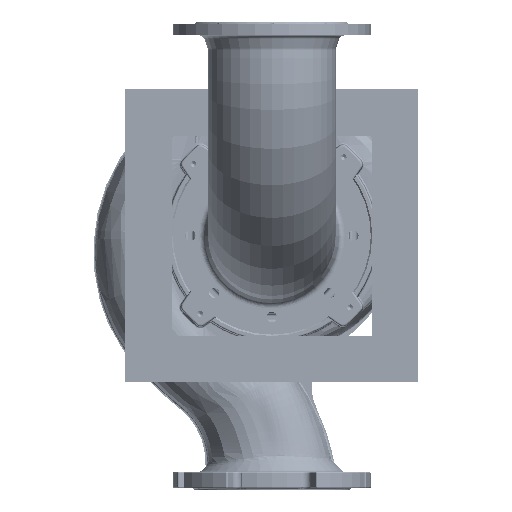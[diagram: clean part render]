
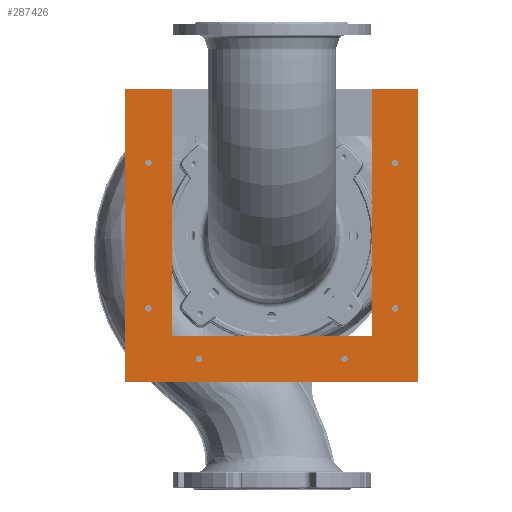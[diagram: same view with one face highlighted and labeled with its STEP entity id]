
A CAD part, front view. The second image highlights one B-rep face of the part: STEP entity #287426.
In plain terms, the highlighted planar face has unit normal (0, -1, 0).
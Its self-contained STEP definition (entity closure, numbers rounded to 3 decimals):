
#254 = CARTESIAN_POINT ( 'NONE',  ( 217.5, -396., 125. ) ) ;
#3880 = CIRCLE ( 'NONE', #326346, 5.5 ) ;
#12341 = EDGE_CURVE ( 'NONE', #334740, #235069, #79921, .T. ) ;
#12885 = VECTOR ( 'NONE', #108140, 1000. ) ;
#14562 = FACE_BOUND ( 'NONE', #311066, .T. ) ;
#15075 = EDGE_LOOP ( 'NONE', ( #353545 ) ) ;
#22091 = EDGE_CURVE ( 'NONE', #463404, #463404, #3880, .T. ) ;
#22657 = EDGE_CURVE ( 'NONE', #383700, #383700, #301991, .T. ) ;
#26330 = ORIENTED_EDGE ( 'NONE', *, *, #12341, .F. ) ;
#30913 = EDGE_LOOP ( 'NONE', ( #318018 ) ) ;
#35215 = EDGE_CURVE ( 'NONE', #106073, #334740, #111837, .T. ) ;
#38207 = DIRECTION ( 'NONE',  ( 1., 0., 0. ) ) ;
#38371 = CARTESIAN_POINT ( 'NONE',  ( 172., -396., -172. ) ) ;
#38733 = DIRECTION ( 'NONE',  ( 0., -1., 0. ) ) ;
#40888 = AXIS2_PLACEMENT_3D ( 'NONE', #69639, #191828, #238126 ) ;
#41526 = CARTESIAN_POINT ( 'NONE',  ( 252., -396., 252. ) ) ;
#43346 = CARTESIAN_POINT ( 'NONE',  ( -252., -396., 252. ) ) ;
#45091 = ORIENTED_EDGE ( 'NONE', *, *, #470160, .F. ) ;
#52055 = AXIS2_PLACEMENT_3D ( 'NONE', #501816, #38733, #127475 ) ;
#53910 = FACE_BOUND ( 'NONE', #15075, .T. ) ;
#54612 = DIRECTION ( 'NONE',  ( 1., 0., 0. ) ) ;
#59334 = DIRECTION ( 'NONE',  ( 0., 0., 1. ) ) ;
#60028 = CARTESIAN_POINT ( 'NONE',  ( 212., -396., 125. ) ) ;
#69639 = CARTESIAN_POINT ( 'NONE',  ( 125., -396., -212. ) ) ;
#79921 = LINE ( 'NONE', #118428, #384939 ) ;
#81888 = VERTEX_POINT ( 'NONE', #43346 ) ;
#82551 = DIRECTION ( 'NONE',  ( 0., 1., 0. ) ) ;
#97559 = CARTESIAN_POINT ( 'NONE',  ( 172., -396., 0. ) ) ;
#103627 = DIRECTION ( 'NONE',  ( 1., 0., 0. ) ) ;
#105387 = VECTOR ( 'NONE', #404491, 1000. ) ;
#106073 = VERTEX_POINT ( 'NONE', #41526 ) ;
#108140 = DIRECTION ( 'NONE',  ( 0., 0., -1. ) ) ;
#111837 = LINE ( 'NONE', #145141, #105387 ) ;
#112290 = AXIS2_PLACEMENT_3D ( 'NONE', #357325, #351855, #103627 ) ;
#118428 = CARTESIAN_POINT ( 'NONE',  ( 0., -396., -252. ) ) ;
#121316 = EDGE_CURVE ( 'NONE', #323148, #323148, #149039, .T. ) ;
#121682 = ORIENTED_EDGE ( 'NONE', *, *, #134502, .F. ) ;
#122193 = VERTEX_POINT ( 'NONE', #366771 ) ;
#127475 = DIRECTION ( 'NONE',  ( 1., 0., 0. ) ) ;
#130184 = EDGE_CURVE ( 'NONE', #81888, #430164, #258966, .T. ) ;
#134502 = EDGE_CURVE ( 'NONE', #235069, #81888, #548125, .T. ) ;
#135693 = LINE ( 'NONE', #206679, #407403 ) ;
#138685 = LINE ( 'NONE', #450689, #12885 ) ;
#140404 = VERTEX_POINT ( 'NONE', #38371 ) ;
#145141 = CARTESIAN_POINT ( 'NONE',  ( 252., -396., 0. ) ) ;
#145336 = AXIS2_PLACEMENT_3D ( 'NONE', #185258, #227872, #520670 ) ;
#149039 = CIRCLE ( 'NONE', #199357, 5.5 ) ;
#154142 = CIRCLE ( 'NONE', #52055, 5.5 ) ;
#176873 = ORIENTED_EDGE ( 'NONE', *, *, #22657, .F. ) ;
#185258 = CARTESIAN_POINT ( 'NONE',  ( -125., -396., -212. ) ) ;
#191828 = DIRECTION ( 'NONE',  ( 0., -1., 0. ) ) ;
#199357 = AXIS2_PLACEMENT_3D ( 'NONE', #502268, #337273, #424284 ) ;
#206679 = CARTESIAN_POINT ( 'NONE',  ( 0., -396., 252. ) ) ;
#213197 = CARTESIAN_POINT ( 'NONE',  ( -119.5, -396., -212. ) ) ;
#220073 = CARTESIAN_POINT ( 'NONE',  ( -206.5, -396., 125. ) ) ;
#227872 = DIRECTION ( 'NONE',  ( 0., -1., 0. ) ) ;
#229055 = DIRECTION ( 'NONE',  ( 0., 0., 1. ) ) ;
#235069 = VERTEX_POINT ( 'NONE', #485923 ) ;
#238126 = DIRECTION ( 'NONE',  ( 1., 0., 0. ) ) ;
#239425 = VERTEX_POINT ( 'NONE', #371616 ) ;
#240059 = EDGE_LOOP ( 'NONE', ( #391381 ) ) ;
#254096 = VECTOR ( 'NONE', #229055, 1000. ) ;
#258966 = LINE ( 'NONE', #332672, #298789 ) ;
#264701 = ORIENTED_EDGE ( 'NONE', *, *, #35215, .F. ) ;
#265356 = VECTOR ( 'NONE', #337412, 1000. ) ;
#269328 = ORIENTED_EDGE ( 'NONE', *, *, #130184, .F. ) ;
#273894 = CIRCLE ( 'NONE', #112290, 5.5 ) ;
#278589 = CIRCLE ( 'NONE', #40888, 5.5 ) ;
#287426 = ADVANCED_FACE ( 'NONE', ( #345619, #305769, #14562, #451927, #53910, #398249, #325457 ), #463988, .F. ) ;
#298251 = LINE ( 'NONE', #426245, #265356 ) ;
#298789 = VECTOR ( 'NONE', #501303, 1000. ) ;
#301991 = CIRCLE ( 'NONE', #145336, 5.5 ) ;
#305769 = FACE_BOUND ( 'NONE', #30913, .T. ) ;
#311066 = EDGE_LOOP ( 'NONE', ( #176873 ) ) ;
#318018 = ORIENTED_EDGE ( 'NONE', *, *, #444894, .F. ) ;
#323148 = VERTEX_POINT ( 'NONE', #446234 ) ;
#325457 = FACE_OUTER_BOUND ( 'NONE', #329963, .T. ) ;
#325736 = EDGE_CURVE ( 'NONE', #430164, #239425, #138685, .T. ) ;
#326346 = AXIS2_PLACEMENT_3D ( 'NONE', #60028, #397077, #54612 ) ;
#327892 = CARTESIAN_POINT ( 'NONE',  ( -252., -396., 0. ) ) ;
#329963 = EDGE_LOOP ( 'NONE', ( #512060, #409651, #269328, #121682, #26330, #264701, #45091, #390820 ) ) ;
#332672 = CARTESIAN_POINT ( 'NONE',  ( 0., -396., 252. ) ) ;
#333802 = LINE ( 'NONE', #97559, #254096 ) ;
#334740 = VERTEX_POINT ( 'NONE', #519583 ) ;
#337273 = DIRECTION ( 'NONE',  ( 0., -1., 0. ) ) ;
#337412 = DIRECTION ( 'NONE',  ( 1., 0., 0. ) ) ;
#341811 = AXIS2_PLACEMENT_3D ( 'NONE', #547513, #82551, #421460 ) ;
#345619 = FACE_BOUND ( 'NONE', #523478, .T. ) ;
#351855 = DIRECTION ( 'NONE',  ( 0., -1., 0. ) ) ;
#353545 = ORIENTED_EDGE ( 'NONE', *, *, #22091, .F. ) ;
#357325 = CARTESIAN_POINT ( 'NONE',  ( -212., -396., -125. ) ) ;
#366771 = CARTESIAN_POINT ( 'NONE',  ( 130.5, -396., -212. ) ) ;
#371616 = CARTESIAN_POINT ( 'NONE',  ( -172., -396., -172. ) ) ;
#372540 = EDGE_CURVE ( 'NONE', #140404, #420818, #333802, .T. ) ;
#377480 = EDGE_CURVE ( 'NONE', #122193, #122193, #278589, .T. ) ;
#383700 = VERTEX_POINT ( 'NONE', #213197 ) ;
#384939 = VECTOR ( 'NONE', #535362, 1000. ) ;
#390820 = ORIENTED_EDGE ( 'NONE', *, *, #372540, .F. ) ;
#391381 = ORIENTED_EDGE ( 'NONE', *, *, #121316, .F. ) ;
#397077 = DIRECTION ( 'NONE',  ( 0., -1., 0. ) ) ;
#398249 = FACE_BOUND ( 'NONE', #240059, .T. ) ;
#402441 = VECTOR ( 'NONE', #59334, 1000. ) ;
#404491 = DIRECTION ( 'NONE',  ( 0., 0., -1. ) ) ;
#407403 = VECTOR ( 'NONE', #38207, 1000. ) ;
#409651 = ORIENTED_EDGE ( 'NONE', *, *, #325736, .F. ) ;
#420312 = ORIENTED_EDGE ( 'NONE', *, *, #506466, .F. ) ;
#420818 = VERTEX_POINT ( 'NONE', #506057 ) ;
#421460 = DIRECTION ( 'NONE',  ( -1., 0., 0. ) ) ;
#423664 = CARTESIAN_POINT ( 'NONE',  ( -172., -396., 252. ) ) ;
#424284 = DIRECTION ( 'NONE',  ( 1., 0., 0. ) ) ;
#426245 = CARTESIAN_POINT ( 'NONE',  ( 0., -396., -172. ) ) ;
#430164 = VERTEX_POINT ( 'NONE', #423664 ) ;
#432541 = VERTEX_POINT ( 'NONE', #220073 ) ;
#444894 = EDGE_CURVE ( 'NONE', #432541, #432541, #154142, .T. ) ;
#446234 = CARTESIAN_POINT ( 'NONE',  ( 217.5, -396., -125. ) ) ;
#450610 = EDGE_CURVE ( 'NONE', #239425, #140404, #298251, .T. ) ;
#450689 = CARTESIAN_POINT ( 'NONE',  ( -172., -396., 0. ) ) ;
#451927 = FACE_BOUND ( 'NONE', #477008, .T. ) ;
#463404 = VERTEX_POINT ( 'NONE', #254 ) ;
#463988 = PLANE ( 'NONE',  #341811 ) ;
#470160 = EDGE_CURVE ( 'NONE', #420818, #106073, #135693, .T. ) ;
#477008 = EDGE_LOOP ( 'NONE', ( #491274 ) ) ;
#482949 = CARTESIAN_POINT ( 'NONE',  ( -206.5, -396., -125. ) ) ;
#485923 = CARTESIAN_POINT ( 'NONE',  ( -252., -396., -252. ) ) ;
#491274 = ORIENTED_EDGE ( 'NONE', *, *, #377480, .F. ) ;
#501303 = DIRECTION ( 'NONE',  ( 1., 0., 0. ) ) ;
#501816 = CARTESIAN_POINT ( 'NONE',  ( -212., -396., 125. ) ) ;
#502268 = CARTESIAN_POINT ( 'NONE',  ( 212., -396., -125. ) ) ;
#506057 = CARTESIAN_POINT ( 'NONE',  ( 172., -396., 252. ) ) ;
#506466 = EDGE_CURVE ( 'NONE', #524603, #524603, #273894, .T. ) ;
#512060 = ORIENTED_EDGE ( 'NONE', *, *, #450610, .F. ) ;
#519583 = CARTESIAN_POINT ( 'NONE',  ( 252., -396., -252. ) ) ;
#520670 = DIRECTION ( 'NONE',  ( 1., 0., 0. ) ) ;
#523478 = EDGE_LOOP ( 'NONE', ( #420312 ) ) ;
#524603 = VERTEX_POINT ( 'NONE', #482949 ) ;
#535362 = DIRECTION ( 'NONE',  ( -1., 0., 0. ) ) ;
#547513 = CARTESIAN_POINT ( 'NONE',  ( 252., -396., 252. ) ) ;
#548125 = LINE ( 'NONE', #327892, #402441 ) ;
